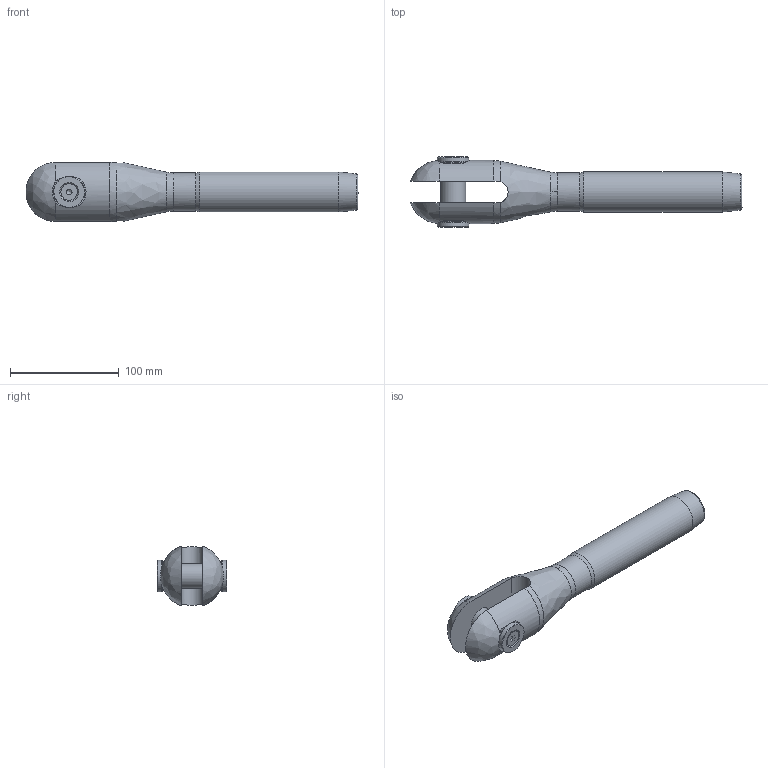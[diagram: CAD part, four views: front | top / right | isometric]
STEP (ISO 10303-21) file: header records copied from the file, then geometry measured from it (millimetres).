
FILE_DESCRIPTION(/* description */ (''),/* implementation_level */ '2;1');
FILE_NAME(/* name */ 'MAC 16_1,4418',/* time_stamp */ '2023-05-23T16:54:52+02:00',/* author */ (''),/* organization */ (''),/* preprocessor_version */ 'ST-DEVELOPER v16.5',/* originating_system */ 'Rhino 7.22',/* authorisation */ '');
FILE_SCHEMA (('CONFIG_CONTROL_DESIGN'));
Length unit declared in the file: millimetre
Products named in the file (1): Document
Bounding box: 305.17 x 64.34 x 54.44 mm (x, y, z)
Volume: 376391.7 mm3; surface area: 59832.8 mm2
Topology: 6 solids, 6 shells, 75 faces, 210 edges, 145 vertices
Faces by surface type: plane 29, bspline 24, cylinder 22
Full cylindrical faces by diameter (mm): 6.647 x2, 8 x2, 8.5 x2, 15.24 x2, 23 x1, 25 x2, 29 x2, 35 x1, 36.8 x1
Entity records: 3106 total; most frequent: CARTESIAN_POINT 1759, ORIENTED_EDGE 412, EDGE_CURVE 206, VERTEX_POINT 145, EDGE_LOOP 85, B_SPLINE_CURVE_WITH_KNOTS 84, ADVANCED_FACE 75, FACE_OUTER_BOUND 75
